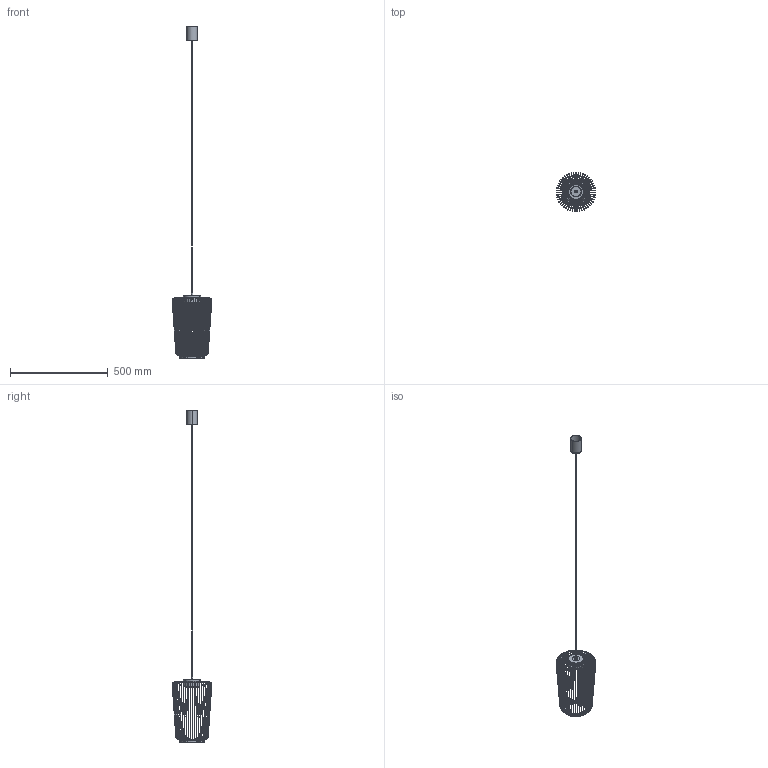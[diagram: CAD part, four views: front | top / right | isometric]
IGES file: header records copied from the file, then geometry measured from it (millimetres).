
Start section: SolidWorks IGES file using analytic representation for surfaces
Global section: file name: C:\Users\anna.bielnik\Desktop\KENAI B\NL2500012268.IGS; native system: SolidWorks 2024; preprocessor: SolidWorks 2024; author: anna.bielnik; date: 260112.080645; units: millimetre
Bounding box: 203.1 x 203 x 1700 mm (x, y, z)
Surface area: 258613 mm2 (no closed solid volume)
Topology: 0 solids, 0 shells, 1274 faces, 12900 edges, 12900 vertices
Faces by surface type: revolution 718, bspline 556
